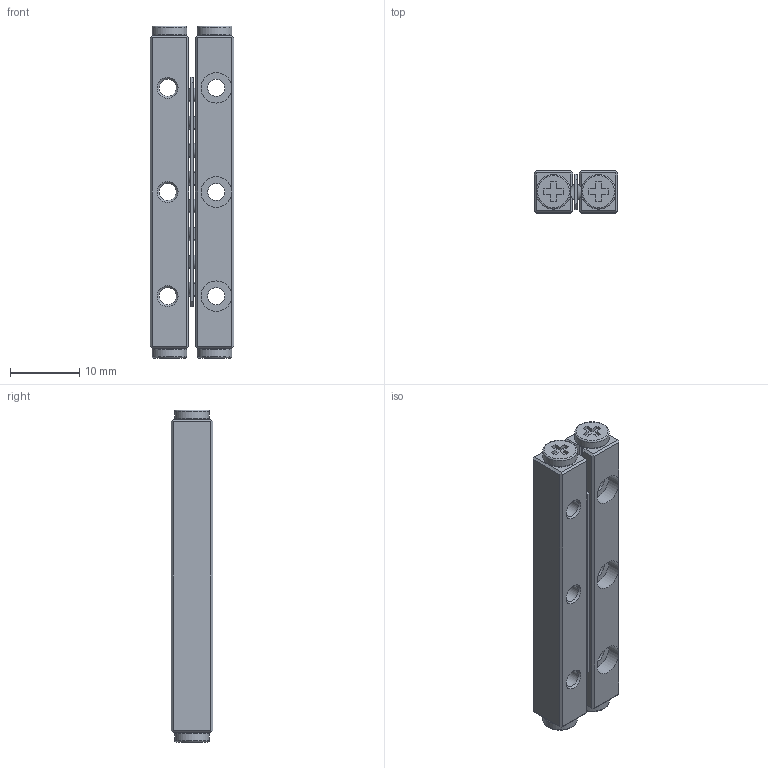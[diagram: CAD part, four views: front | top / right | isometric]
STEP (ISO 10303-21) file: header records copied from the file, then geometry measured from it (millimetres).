
FILE_DESCRIPTION(/* description */ ('Unknown'),/* implementation_level */ '2;1');
FILE_NAME(/* name */ 'VR2-45x8Z',/* time_stamp */ '2025-06-12T09:12:39+08:00',/* author */ ('Unknown'),/* organization */ ('Unknown'),/* preprocessor_version */ 'ST-DEVELOPER v18.102',/* originating_system */ 'Solid Edge',/* authorisation */ 'Unknown');
FILE_SCHEMA (('AUTOMOTIVE_DESIGN {1 0 10303 214 3 1 1}'));
Length unit declared in the file: millimetre
Products named in the file (3): VR2-45x8Z; VR2-45x8Z_rail; VR2-45x8Z_roller
Assembly tree (3 placements, depth 2):
  VR2-45x8Z
    VR2-45x8Z_rail  x2
    VR2-45x8Z_roller
Bounding box: 12 x 6 x 47.8 mm (x, y, z)
Volume: 2746.4 mm3; surface area: 3104.4 mm2
Topology: 3 solids, 3 shells, 266 faces, 758 edges, 494 vertices
Faces by surface type: plane 192, cylinder 60, torus 8, cone 6
Full cylindrical faces by diameter (mm): 2 x8, 2.459 x6, 4.4 x6, 5 x4
Entity records: 6677 total; most frequent: CARTESIAN_POINT 1053, DIRECTION 1039, ORIENTED_EDGE 1020, EDGE_CURVE 510, LINE 369, VECTOR 369, VERTEX_POINT 349, AXIS2_PLACEMENT_3D 335
